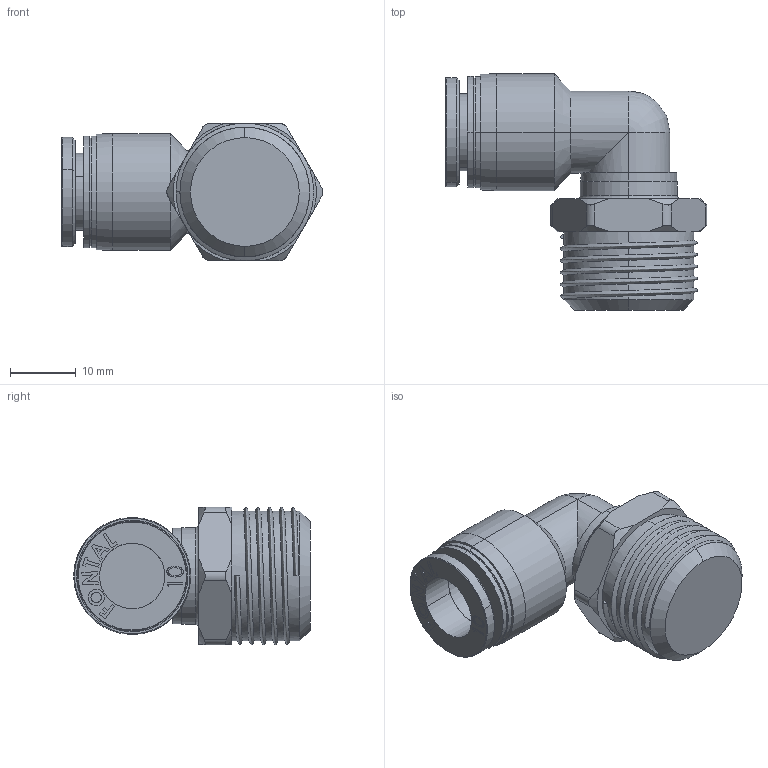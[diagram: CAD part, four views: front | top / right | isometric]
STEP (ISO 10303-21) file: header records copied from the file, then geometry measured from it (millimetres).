
FILE_DESCRIPTION (( 'STEP AP203' ), '1' );
FILE_NAME ('FPL10-04.STEP', '2016-01-14T21:02:34', ( '' ), ( '' ), 'SwSTEP 2.0', 'SolidWorks 2014', '' );
FILE_SCHEMA (( 'CONFIG_CONTROL_DESIGN' ));
Length unit declared in the file: millimetre
Products named in the file (4): FPL10-04-B; FPC10-02-A; FPL10-04; FPL10-02-A
Assembly tree (3 placements, depth 2):
  FPL10-04
    FPL10-02-A
    FPC10-02-A
    FPL10-04-B
Bounding box: 39.9 x 36.1 x 21 mm (x, y, z)
Volume: 10463 mm3; surface area: 5409.5 mm2
Topology: 3 solids, 3 shells, 177 faces, 436 edges, 282 vertices
Faces by surface type: plane 85, cylinder 44, cone 22, bspline 20, torus 6
Entity records: 8838 total; most frequent: CARTESIAN_POINT 4448, ORIENTED_EDGE 868, DIRECTION 745, EDGE_CURVE 434, VERTEX_POINT 282, AXIS2_PLACEMENT_3D 249, VECTOR 247, LINE 247
